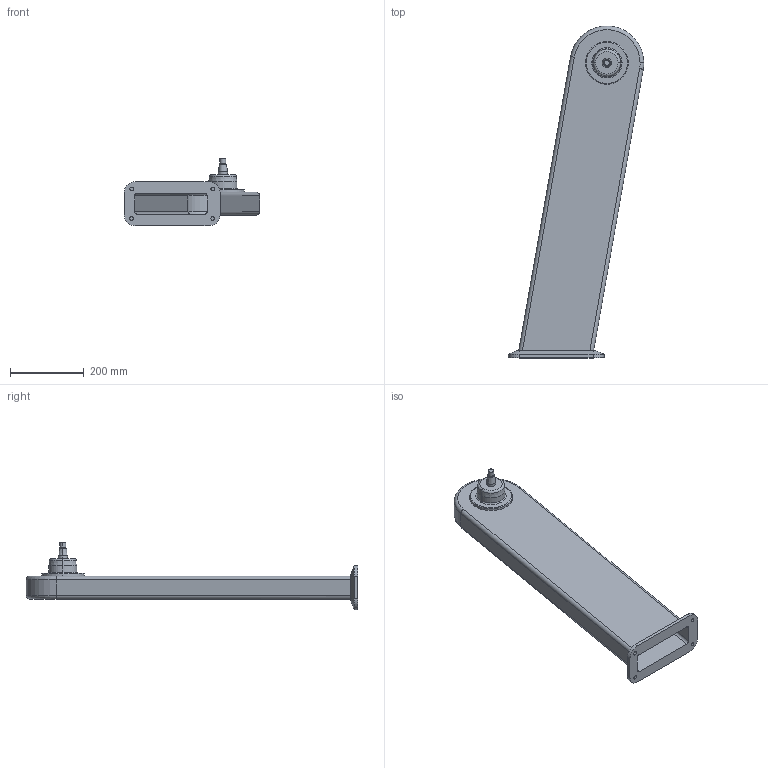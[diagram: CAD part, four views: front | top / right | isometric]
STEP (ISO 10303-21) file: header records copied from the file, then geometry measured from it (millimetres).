
FILE_DESCRIPTION (( 'STEP AP214' ), '1' );
FILE_NAME ('WP800_H800_+10.STEP', '2014-06-26T12:49:01', ( '' ), ( '' ), 'SwSTEP 2.0', 'SolidWorks 2014', '' );
FILE_SCHEMA (( 'AUTOMOTIVE_DESIGN' ));
Length unit declared in the file: millimetre
Products named in the file (1): WP800_H800_+10
Bounding box: 367.54 x 900 x 183.29 mm (x, y, z)
Volume: 1926870.2 mm3; surface area: 956645.9 mm2
Topology: 1 solids, 1 shells, 92 faces, 202 edges, 122 vertices
Faces by surface type: cylinder 36, plane 26, cone 16, torus 14
Entity records: 2564 total; most frequent: DIRECTION 484, CARTESIAN_POINT 441, ORIENTED_EDGE 404, EDGE_CURVE 202, AXIS2_PLACEMENT_3D 197, VERTEX_POINT 122, CIRCLE 104, EDGE_LOOP 104
